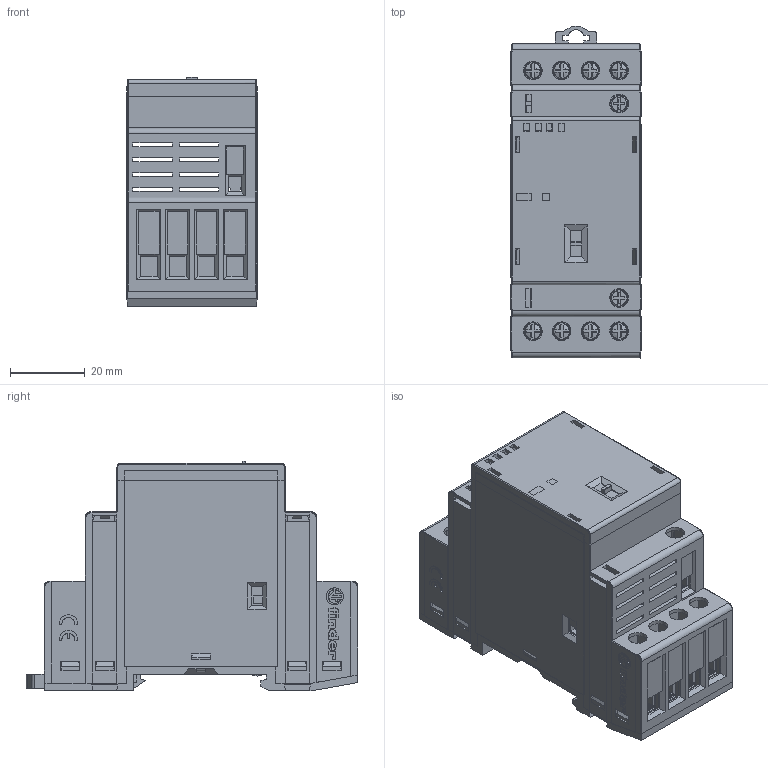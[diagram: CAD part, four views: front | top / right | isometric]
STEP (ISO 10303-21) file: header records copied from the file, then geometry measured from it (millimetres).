
FILE_DESCRIPTION(('STEP AP214'),'2;1');
FILE_NAME('2234_novembre19.stp','2019-11-08T14:47:12',(''),(''),'2007.1.106','THINKDESIGN','');
FILE_SCHEMA(('AUTOMOTIVE_DESIGN'));
Length unit declared in the file: millimetre
Products named in the file (1): top
Bounding box: 35 x 88.85 x 61.3 mm (x, y, z)
Surface area: 34355.4 mm2 (no closed solid volume)
Topology: 0 solids, 0 shells, 1998 faces, 11568 edges, 11564 vertices
Faces by surface type: bspline 1998
Entity records: 72336 total; most frequent: CARTESIAN_POINT 42110, COMPOSITE_CURVE_SEGMENT 11564, QUASI_UNIFORM_CURVE 9112, OUTER_BOUNDARY_CURVE 1998, CURVE_BOUNDED_SURFACE 1998, STYLED_ITEM 1998, B_SPLINE_SURFACE_WITH_KNOTS 1777, B_SPLINE_CURVE_WITH_KNOTS 1547
